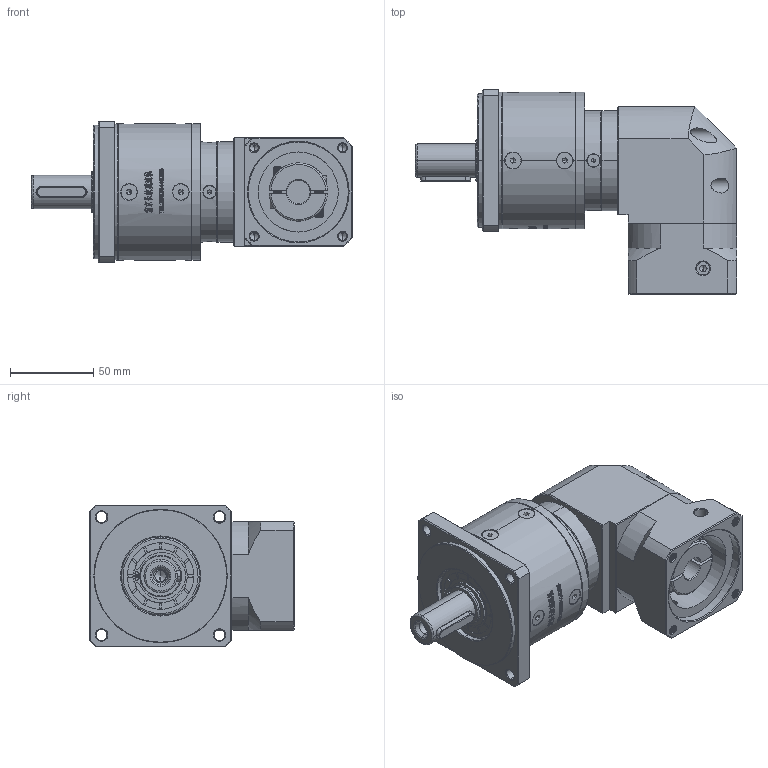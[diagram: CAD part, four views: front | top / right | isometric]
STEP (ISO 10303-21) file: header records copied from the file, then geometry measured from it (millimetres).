
FILE_DESCRIPTION (( 'STEP AP214' ), '1' );
FILE_NAME ('ZFR80-D20-L2-14-60-75-M6.step', '2022-05-08T14:49:37', ( '' ), ( 'Microsoft' ), 'SwSTEP 2.0', 'SolidWorks 2016', '' );
FILE_SCHEMA (( 'AUTOMOTIVE_DESIGN' ));
Length unit declared in the file: millimetre
Products named in the file (1): ZFR80-D20-L2-14-60-75-M6
Bounding box: 192.5 x 122.7 x 85 mm (x, y, z)
Volume: 799128.8 mm3; surface area: 104372 mm2
Topology: 17 solids, 18 shells, 3078 faces, 8209 edges, 5288 vertices
Faces by surface type: plane 1601, bspline 608, cylinder 468, cone 381, torus 20
Entity records: 165702 total; most frequent: CARTESIAN_POINT 60453, ORIENTED_EDGE 16326, DIRECTION 12451, EDGE_CURVE 8163, VERTEX_POINT 5288, LINE 4989, VECTOR 4989, AXIS2_PLACEMENT_3D 3731
